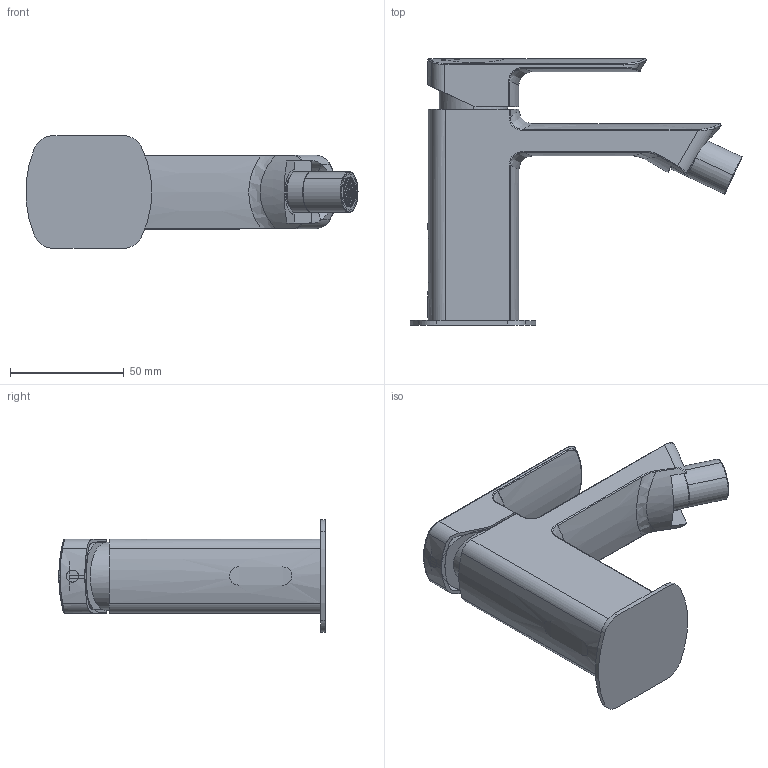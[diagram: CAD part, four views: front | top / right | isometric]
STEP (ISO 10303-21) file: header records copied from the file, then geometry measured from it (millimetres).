
FILE_DESCRIPTION (( 'STEP AP214' ), '1' );
FILE_NAME ('56401110 x architetti.STEP', '2024-11-15T07:54:00', ( '' ), ( '' ), 'SwSTEP 2.0', 'SolidWorks 2020', '' );
FILE_SCHEMA (( 'AUTOMOTIVE_DESIGN' ));
Length unit declared in the file: millimetre
Products named in the file (1): 56401110 x architetti
Bounding box: 146.05 x 117.15 x 49.5 mm (x, y, z)
Surface area: 44987.5 mm2 (no closed solid volume)
Topology: 0 solids, 80 shells, 1990 faces, 5118 edges, 3375 vertices
Faces by surface type: bspline 974, plane 475, cylinder 460, cone 81
Full cylindrical faces by diameter (mm): 15.1 x2
Entity records: 110116 total; most frequent: CARTESIAN_POINT 50906, ORIENTED_EDGE 9807, EDGE_CURVE 5112, B_SPLINE_CURVE_WITH_KNOTS 3747, DIRECTION 3446, VERTEX_POINT 3374, EDGE_LOOP 2181, ADVANCED_FACE 1988
